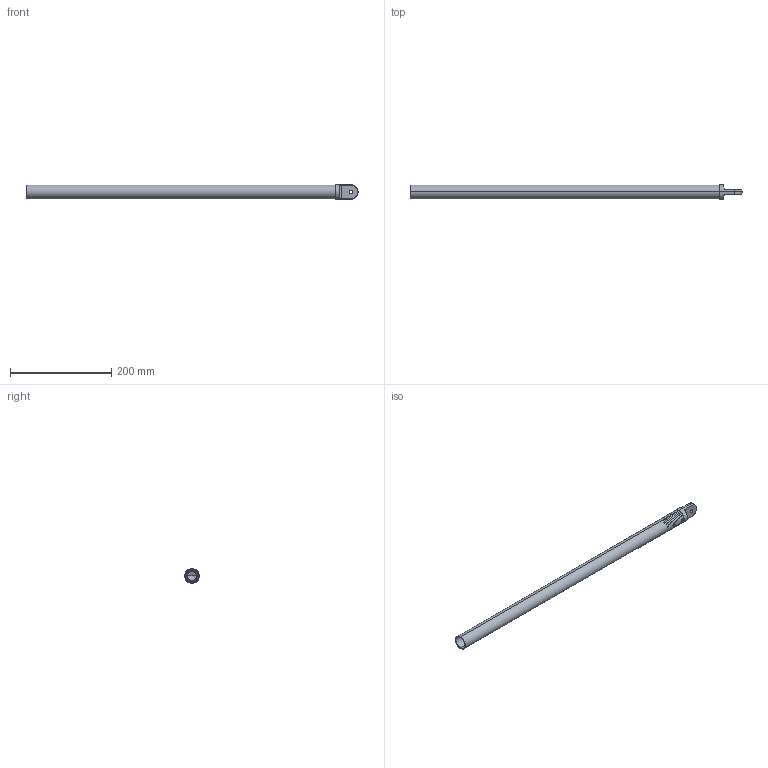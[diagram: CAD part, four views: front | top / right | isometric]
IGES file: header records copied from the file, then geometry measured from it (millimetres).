
Start section: SolidWorks IGES file using analytic representation for surfaces
Global section: file name: \\SERVER3\Design\_New Design Drive Folder List\_Design Vault\AAI\Modular Round Tube Connectors\Solidworks Models\Demonstrations\25. Assemblies\Modular Connectors\1. End Connectors\End Connectors Solid Models\Male Clevis Connector.IGS; native system: SolidWorks 2013; preprocessor: SolidWorks 2013; author: tbraun; date: 130819.103603; units: inch
Bounding box: 654.77 x 28.57 x 28.57 mm (x, y, z)
Surface area: 114003.6 mm2 (no closed solid volume)
Topology: 0 solids, 0 shells, 231 faces, 3028 edges, 3025 vertices
Faces by surface type: bspline 117, revolution 114
